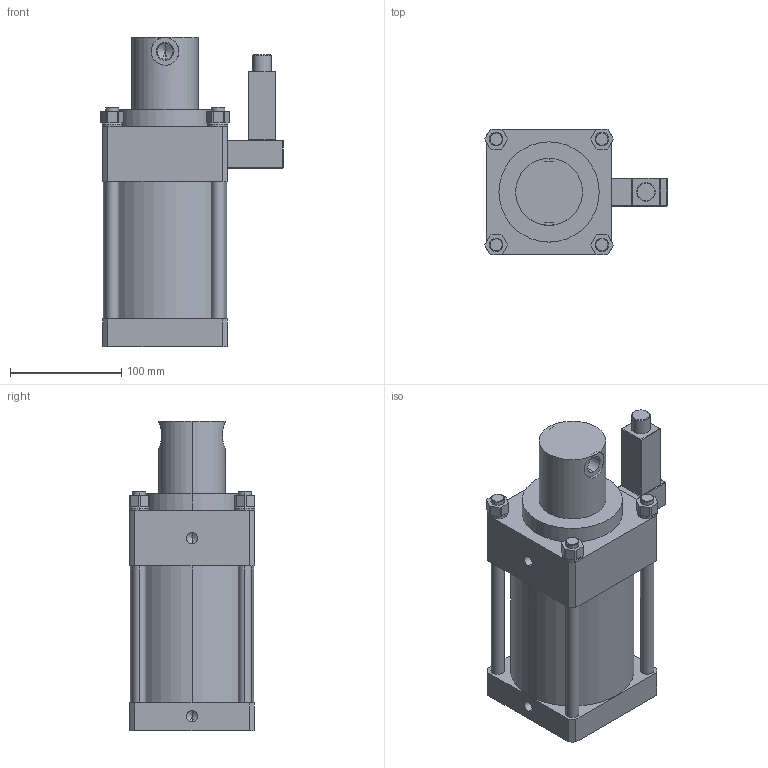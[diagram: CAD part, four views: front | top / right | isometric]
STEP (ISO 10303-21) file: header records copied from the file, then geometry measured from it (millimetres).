
FILE_DESCRIPTION (( 'STEP AP203' ), '1' );
FILE_NAME ('6210 300.STEP', '2016-01-29T11:08:17', ( '' ), ( '' ), 'SwSTEP 2.0', 'SolidWorks 2015', '' );
FILE_SCHEMA (( 'CONFIG_CONTROL_DESIGN' ));
Length unit declared in the file: millimetre
Products named in the file (1): 6210 300
Bounding box: 163.64 x 113 x 278 mm (x, y, z)
Volume: 2532288.4 mm3; surface area: 162883.3 mm2
Topology: 1 solids, 5 shells, 278 faces, 654 edges, 398 vertices
Faces by surface type: plane 150, cylinder 86, cone 34, torus 8
Entity records: 8085 total; most frequent: CARTESIAN_POINT 1541, DIRECTION 1410, ORIENTED_EDGE 1276, EDGE_CURVE 638, AXIS2_PLACEMENT_3D 511, VERTEX_POINT 398, VECTOR 388, LINE 388
